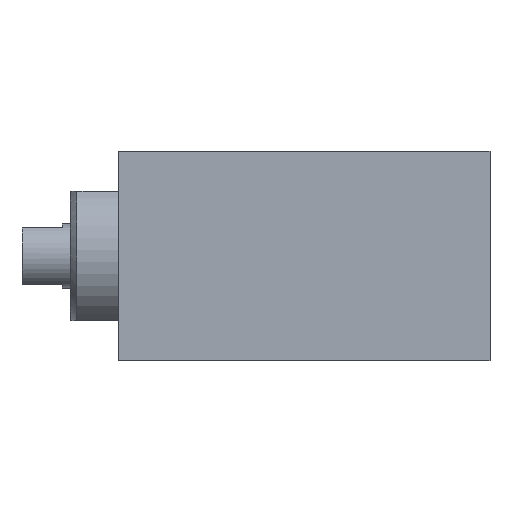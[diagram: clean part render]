
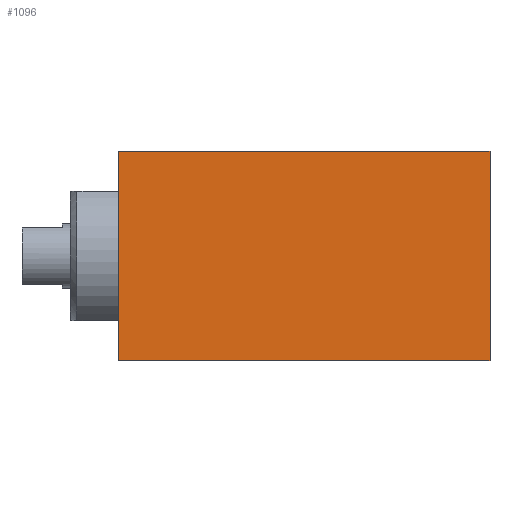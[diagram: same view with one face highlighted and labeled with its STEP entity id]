
A CAD part, front view. The second image highlights one B-rep face of the part: STEP entity #1096.
In plain terms, the highlighted planar face has unit normal (0, -1, 0).
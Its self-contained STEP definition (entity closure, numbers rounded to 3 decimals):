
#145 = ORIENTED_EDGE ( 'NONE', *, *, #1353, .T. ) ;
#177 = VECTOR ( 'NONE', #474, 1000. ) ;
#193 = AXIS2_PLACEMENT_3D ( 'NONE', #812, #2622, #197 ) ;
#197 = DIRECTION ( 'NONE',  ( 1., 0., 0. ) ) ;
#226 = LINE ( 'NONE', #2042, #1078 ) ;
#448 = DIRECTION ( 'NONE',  ( 0., 0., 1. ) ) ;
#474 = DIRECTION ( 'NONE',  ( -1., 0., 0. ) ) ;
#491 = LINE ( 'NONE', #1582, #177 ) ;
#577 = ORIENTED_EDGE ( 'NONE', *, *, #2188, .F. ) ;
#658 = DIRECTION ( 'NONE',  ( -1., 0., 0. ) ) ;
#812 = CARTESIAN_POINT ( 'NONE',  ( 23., -10., -6.5 ) ) ;
#852 = EDGE_CURVE ( 'NONE', #2821, #2378, #226, .T. ) ;
#943 = CARTESIAN_POINT ( 'NONE',  ( 0., -10., -6.5 ) ) ;
#1078 = VECTOR ( 'NONE', #1122, 1000. ) ;
#1096 = ADVANCED_FACE ( 'NONE', ( #2857 ), #1931, .T. ) ;
#1122 = DIRECTION ( 'NONE',  ( 0., 0., 1. ) ) ;
#1202 = VERTEX_POINT ( 'NONE', #1757 ) ;
#1304 = EDGE_LOOP ( 'NONE', ( #1928, #577, #2336, #145 ) ) ;
#1353 = EDGE_CURVE ( 'NONE', #2378, #1202, #2668, .T. ) ;
#1557 = LINE ( 'NONE', #2015, #1899 ) ;
#1582 = CARTESIAN_POINT ( 'NONE',  ( 23., -10., -6.5 ) ) ;
#1757 = CARTESIAN_POINT ( 'NONE',  ( 0., -10., 6.5 ) ) ;
#1899 = VECTOR ( 'NONE', #448, 1000. ) ;
#1928 = ORIENTED_EDGE ( 'NONE', *, *, #2757, .F. ) ;
#1931 = PLANE ( 'NONE',  #193 ) ;
#2015 = CARTESIAN_POINT ( 'NONE',  ( 0., -10., -6.5 ) ) ;
#2042 = CARTESIAN_POINT ( 'NONE',  ( 23., -10., -6.5 ) ) ;
#2072 = CARTESIAN_POINT ( 'NONE',  ( 23., -10., 6.5 ) ) ;
#2170 = VECTOR ( 'NONE', #658, 1000. ) ;
#2188 = EDGE_CURVE ( 'NONE', #2821, #2492, #491, .T. ) ;
#2303 = CARTESIAN_POINT ( 'NONE',  ( 23., -10., -6.5 ) ) ;
#2336 = ORIENTED_EDGE ( 'NONE', *, *, #852, .T. ) ;
#2378 = VERTEX_POINT ( 'NONE', #2072 ) ;
#2492 = VERTEX_POINT ( 'NONE', #943 ) ;
#2622 = DIRECTION ( 'NONE',  ( 0., -1., 0. ) ) ;
#2668 = LINE ( 'NONE', #2698, #2170 ) ;
#2698 = CARTESIAN_POINT ( 'NONE',  ( 23., -10., 6.5 ) ) ;
#2757 = EDGE_CURVE ( 'NONE', #2492, #1202, #1557, .T. ) ;
#2821 = VERTEX_POINT ( 'NONE', #2303 ) ;
#2857 = FACE_OUTER_BOUND ( 'NONE', #1304, .T. ) ;
